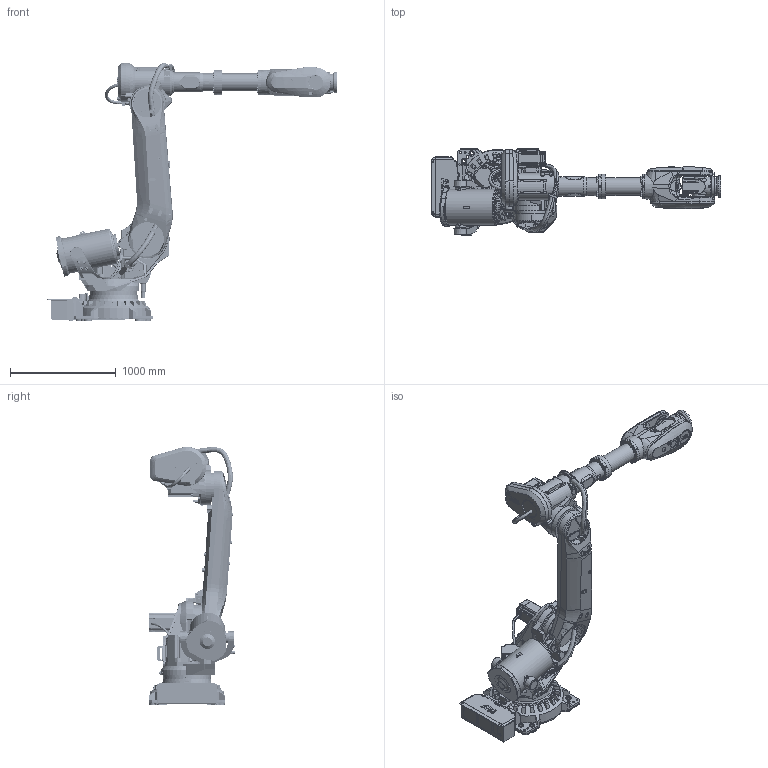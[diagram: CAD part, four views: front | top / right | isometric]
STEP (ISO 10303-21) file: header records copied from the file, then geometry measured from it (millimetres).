
FILE_DESCRIPTION(/* description */ (''),/* implementation_level */ '2;1');
FILE_NAME(/* name */ 'E:\组装完成的图纸\IRB 6700\IRB 6700-150-3.2\IRB 6700-150-3.2.stp',/* time_stamp */ '2023-11-04T17:53:23+08:00',/* author */ ('Administrator'),/* organization */ (''),/* preprocessor_version */ 'ST-DEVELOPER v16.5',/* originating_system */ 'Autodesk Inventor 2017',/* authorisation */ '');
FILE_SCHEMA (('AUTOMOTIVE_DESIGN { 1 0 10303 214 3 1 1 }'));
Products named in the file (16): 部件15; IRB6700-MH3_150-320_IRC5_rev00_LOGO1_CAD; IRB6700-MH3_150-320_IRC5_rev00_LOGO2_CAD; IRB6700-MH3_150-320_IRC5_rev00_LOGO3_CAD; IRB6700-MH3_150-320_IRC5_rev01_BASE_CAD; IRB6700-MH3_150-320_IRC5_rev01_LINK02m_CABLE; IRB6700-MH3_150-320_IRC5_rev02_LINK01m_CABLE; IRB6700-MH3_150-320_IRC5_rev02_LINK03m_CABLE; IRB6700-MH3_150-320_IRC5_rev02_LINK04_CAD; IRB6700-MH3_150-320_IRC5_rev02_LINK06_CAD; IRB6700-MH3_150-320_IRC5_rev03_LINK02_CAD; IRB6700-MH3_150-320_IRC5_rev03_ROD_CAD; IRB6700-MH3_150-320_IRC5_rev04_LINK05_CAD; IRB6700-MH3_150-320_IRC5_rev05_LINK03_CAD; IRB6700-MH3_150-320_IRC5_rev06_CYLINDER_CAD; IRB6700-MH3_150-320_IRC5_rev06_LINK01_CAD
Assembly tree (15 placements, depth 2):
  部件15
    IRB6700-MH3_150-320_IRC5_rev00_LOGO1_CAD
    IRB6700-MH3_150-320_IRC5_rev00_LOGO2_CAD
    IRB6700-MH3_150-320_IRC5_rev00_LOGO3_CAD
    IRB6700-MH3_150-320_IRC5_rev01_BASE_CAD
    IRB6700-MH3_150-320_IRC5_rev01_LINK02m_CABLE
    IRB6700-MH3_150-320_IRC5_rev02_LINK01m_CABLE
    IRB6700-MH3_150-320_IRC5_rev02_LINK03m_CABLE
    IRB6700-MH3_150-320_IRC5_rev02_LINK04_CAD
    IRB6700-MH3_150-320_IRC5_rev02_LINK06_CAD
    IRB6700-MH3_150-320_IRC5_rev03_LINK02_CAD
    IRB6700-MH3_150-320_IRC5_rev03_ROD_CAD
    IRB6700-MH3_150-320_IRC5_rev04_LINK05_CAD
    IRB6700-MH3_150-320_IRC5_rev05_LINK03_CAD
    IRB6700-MH3_150-320_IRC5_rev06_CYLINDER_CAD
    IRB6700-MH3_150-320_IRC5_rev06_LINK01_CAD
Bounding box: 2739.5 x 816 x 2445.25 mm (x, y, z)
Volume: 458444036.1 mm3; surface area: 13357081 mm2
Topology: 17 solids, 19 shells, 5331 faces, 14123 edges, 9147 vertices
Faces by surface type: plane 3246, cylinder 1090, cone 535, bspline 438, torus 17, sphere 5
Full cylindrical faces by diameter (mm): 5 x23, 6 x14, 6.5 x8, 6.6 x9, 6.8 x12, 7 x16, 7.1 x2, 7.5 x8, 8 x2, 8.3 x4, 8.5 x4, 8.6 x4, 8.8 x4, 9 x5, 10 x4, 10.2 x38, 11.05 x4, 12 x1, 12.5 x2, 13 x1, 14 x6, 14.385 x3, 16 x1, 16.3 x1, 17.5 x8, 17.583 x1, 17.6 x1, 17.608 x1, 18 x15, 18.2 x4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
Entity records: 229932 total; most frequent: CARTESIAN_POINT 102145, ORIENTED_EDGE 26582, DIRECTION 24864, EDGE_CURVE 13291, VERTEX_POINT 8927, AXIS2_PLACEMENT_3D 8439, LINE 7986, VECTOR 7986
